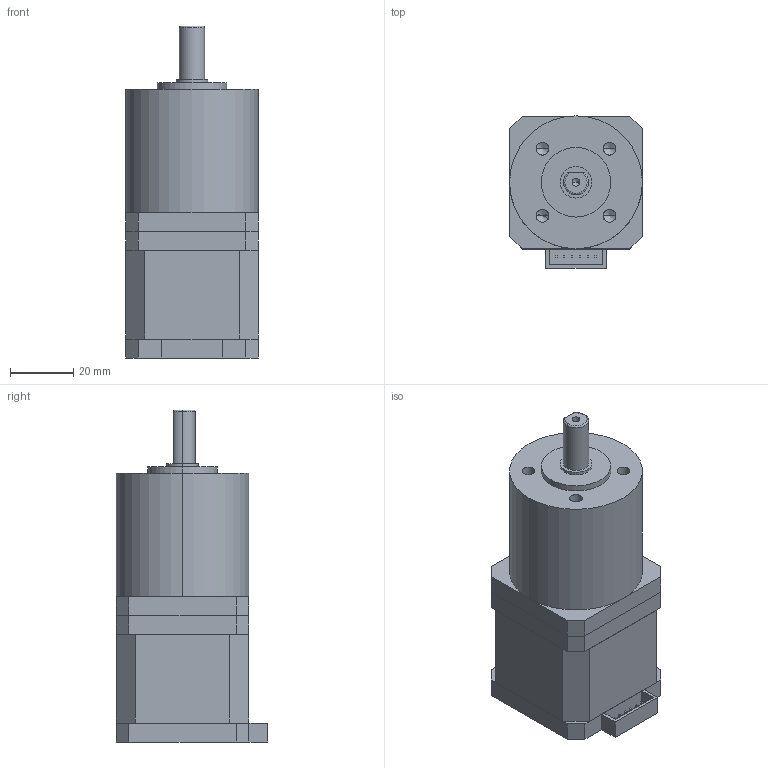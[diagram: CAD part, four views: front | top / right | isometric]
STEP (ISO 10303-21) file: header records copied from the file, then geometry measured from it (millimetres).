
FILE_DESCRIPTION (( 'STEP AP203' ), '1' );
FILE_NAME ('T42PG100-D17-0440.STEP', '2019-10-25T07:18:02', ( 'China' ), ( 'Home' ), 'SwSTEP 2.0', 'SolidWorks 2016', '' );
FILE_SCHEMA (( 'CONFIG_CONTROL_DESIGN' ));
Length unit declared in the file: millimetre
Products named in the file (1): T42PG100-D17-0440
Bounding box: 42 x 48 x 105 mm (x, y, z)
Volume: 134126 mm3; surface area: 27585 mm2
Topology: 4 solids, 4 shells, 127 faces, 301 edges, 187 vertices
Faces by surface type: plane 87, cylinder 19, cone 18, torus 3
Entity records: 3613 total; most frequent: CARTESIAN_POINT 622, DIRECTION 598, ORIENTED_EDGE 582, EDGE_CURVE 291, VECTOR 236, LINE 236, VERTEX_POINT 187, AXIS2_PLACEMENT_3D 181
